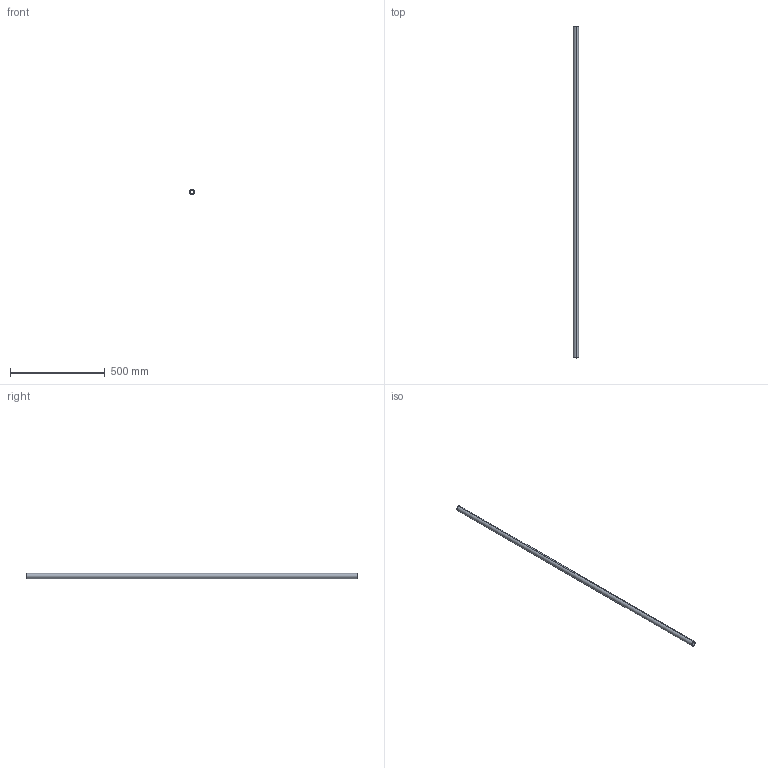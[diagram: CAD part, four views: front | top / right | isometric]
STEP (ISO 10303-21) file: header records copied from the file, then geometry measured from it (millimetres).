
FILE_DESCRIPTION (( 'STEP AP214' ), '1' );
FILE_NAME ('CCJ029-REP.216 - LISSE GARDE CORPS B4-C4.STEP', '2024-01-10T14:58:24', ( '' ), ( '' ), 'SwSTEP 2.0', 'SolidWorks 2021', '' );
FILE_SCHEMA (( 'AUTOMOTIVE_DESIGN' ));
Length unit declared in the file: millimetre
Products named in the file (1): CCJ029-REP.216 - LISSE GARDE CORPS B4-C4
Bounding box: 26.9 x 1748 x 26.9 mm (x, y, z)
Volume: 310709.3 mm3; surface area: 270537.5 mm2
Topology: 1 solids, 1 shells, 6 faces, 12 edges, 8 vertices
Faces by surface type: cylinder 4, plane 2
Entity records: 202 total; most frequent: DIRECTION 34, CARTESIAN_POINT 27, ORIENTED_EDGE 24, AXIS2_PLACEMENT_3D 15, EDGE_CURVE 12, CIRCLE 8, VERTEX_POINT 8, EDGE_LOOP 8
